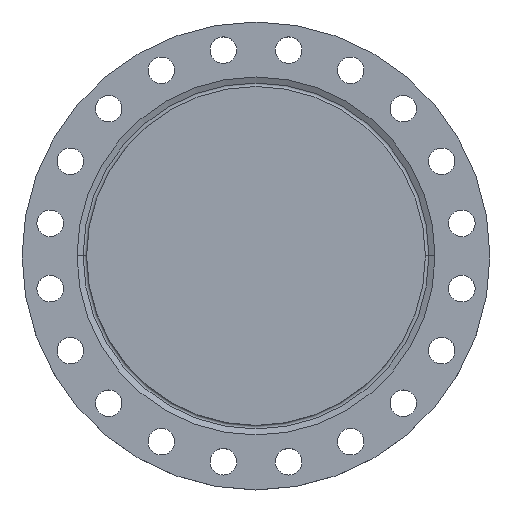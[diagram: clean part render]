
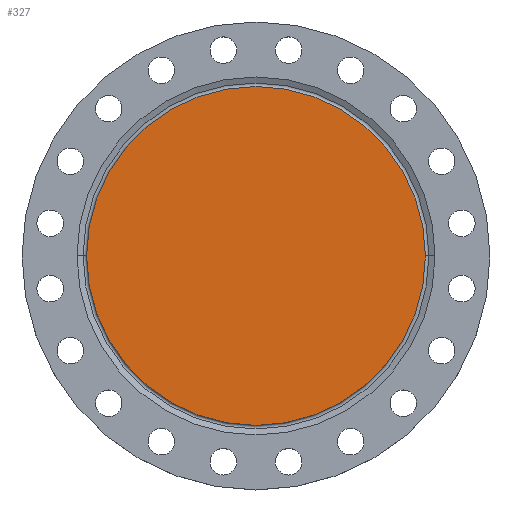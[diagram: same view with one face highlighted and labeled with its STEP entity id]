
A CAD part, top view. The second image highlights one B-rep face of the part: STEP entity #327.
In plain terms, the highlighted planar face has unit normal (0, 0, 1).
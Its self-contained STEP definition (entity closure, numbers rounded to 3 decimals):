
#150 = CARTESIAN_POINT ( 'NONE',  ( 0., 0., 0. ) ) ;
#151 = PLANE ( 'NONE',  #368 ) ;
#320 = VERTEX_POINT ( 'NONE', #1264 ) ;
#327 = ADVANCED_FACE ( 'NONE', ( #1113 ), #151, .T. ) ;
#368 = AXIS2_PLACEMENT_3D ( 'NONE', #951, #1414, #1275 ) ;
#478 = ORIENTED_EDGE ( 'NONE', *, *, #1544, .F. ) ;
#637 = AXIS2_PLACEMENT_3D ( 'NONE', #2024, #2036, #1579 ) ;
#837 = AXIS2_PLACEMENT_3D ( 'NONE', #150, #2035, #1273 ) ;
#883 = EDGE_LOOP ( 'NONE', ( #1285, #478 ) ) ;
#910 = CIRCLE ( 'NONE', #637, 248. ) ;
#951 = CARTESIAN_POINT ( 'NONE',  ( 0., 0., 0. ) ) ;
#1113 = FACE_OUTER_BOUND ( 'NONE', #883, .T. ) ;
#1114 = CIRCLE ( 'NONE', #837, 248. ) ;
#1252 = CARTESIAN_POINT ( 'NONE',  ( -248., 0., 0. ) ) ;
#1264 = CARTESIAN_POINT ( 'NONE',  ( 248., 0., 0. ) ) ;
#1273 = DIRECTION ( 'NONE',  ( -1., 0., 0. ) ) ;
#1275 = DIRECTION ( 'NONE',  ( 1., 0., 0. ) ) ;
#1285 = ORIENTED_EDGE ( 'NONE', *, *, #1917, .F. ) ;
#1414 = DIRECTION ( 'NONE',  ( 0., 0., 1. ) ) ;
#1544 = EDGE_CURVE ( 'NONE', #320, #1688, #1114, .T. ) ;
#1579 = DIRECTION ( 'NONE',  ( -1., 0., 0. ) ) ;
#1688 = VERTEX_POINT ( 'NONE', #1252 ) ;
#1917 = EDGE_CURVE ( 'NONE', #1688, #320, #910, .T. ) ;
#2024 = CARTESIAN_POINT ( 'NONE',  ( 0., 0., 0. ) ) ;
#2035 = DIRECTION ( 'NONE',  ( 0., 0., -1. ) ) ;
#2036 = DIRECTION ( 'NONE',  ( 0., 0., -1. ) ) ;
